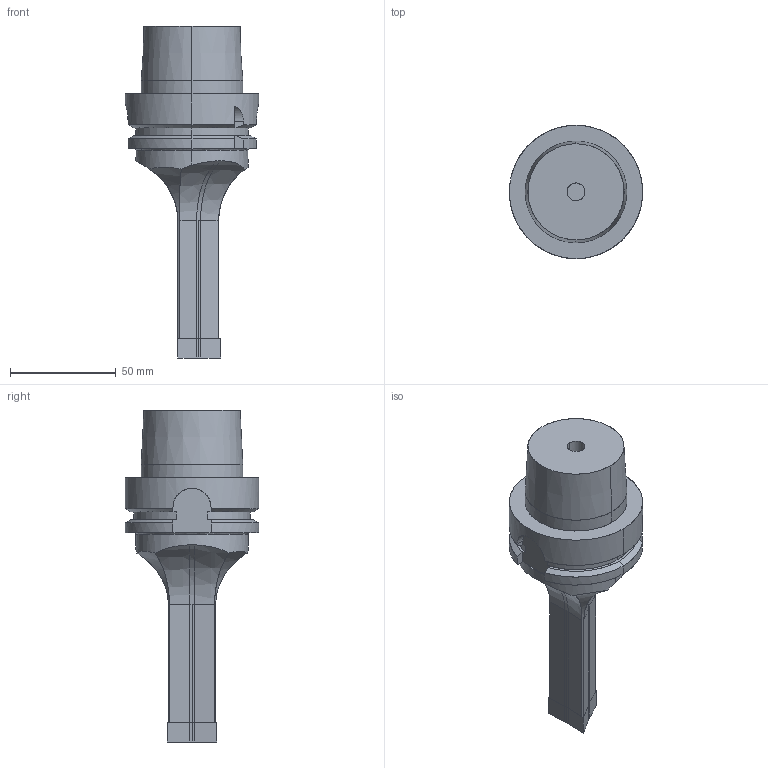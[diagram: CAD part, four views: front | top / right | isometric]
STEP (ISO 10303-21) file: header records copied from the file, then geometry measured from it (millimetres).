
FILE_DESCRIPTION(('OPEN MIND Model'),'2;1');
FILE_NAME('OPEN MIND Shape Model','2021-08-11T15:20:01',('Author'),( 'hyperCAD-S '),'hyperCAD-S STEP processor 6.6','hyperCAD-S 1.0' ,'Unknown');
FILE_SCHEMA(('AUTOMOTIVE_DESIGN { 1 2 10303 214 -1 1 5 4 }'));
Length unit declared in the file: millimetre
Products named in the file (105): Product 1; Product 1.1; Product 1.2; Product 1.3; Product 1.4; Product 1.5; Product 1.6; Product 1.7; Product 1.8; Product 1.9; Product 1.10; Product 1.11; Product 1.12; Product 1.13; Product 1.14; Product 1.15; Product 1.16; Product 1.17; Product 1.18; Product 1.19; Product 1.20; Product 1.21; Product 1.22; Product 1.23; Product 1.24; Product 1.25; Product 1.26; Product 1.27; Product 1.28; Product 1.29; Product 1.30; Product 1.31; Product 1.32; Product 1.33; Product 1.34; Product 1.35; Product 1.36; Product 1.37; Product 1.38; Product 1.39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
Assembly tree (104 placements, depth 2):
  Product 1
    Product 1.1
    Product 1.2
    Product 1.3
    Product 1.4
    Product 1.5
    Product 1.6
    Product 1.7
    Product 1.8
    Product 1.9
    Product 1.10
    Product 1.11
    Product 1.12
    Product 1.13
    Product 1.14
    Product 1.15
    Product 1.16
    Product 1.17
    Product 1.18
    Product 1.19
    Product 1.20
    Product 1.21
    Product 1.22
    Product 1.23
    Product 1.24
    Product 1.25
    Product 1.26
    Product 1.27
    Product 1.28
    Product 1.29
    Product 1.30
    Product 1.31
    Product 1.32
    Product 1.33
    Product 1.34
    Product 1.35
    Product 1.36
    Product 1.37
    Product 1.38
    Product 1.39
    Product 1.40
    Product 1.41
    Product 1.42
    Product 1.43
    Product 1.44
    Product 1.45
    Product 1.46
    Product 1.47
    Product 1.48
    Product 1.49
    Product 1.50
    Product 1.51
    Product 1.52
    Product 1.53
    Product 1.54
    Product 1.55
    Product 1.56
    Product 1.57
    Product 1.58
    Product 1.59
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Bounding box: 63 x 63 x 156.86 mm (x, y, z)
Volume: 1961.7 mm3; surface area: 25686.2 mm2
Topology: 1 solids, 91 shells, 104 faces, 523 edges, 524 vertices
Faces by surface type: plane 42, cylinder 37, revolution 22, bspline 3
Entity records: 14520 total; most frequent: CARTESIAN_POINT 7168, B_SPLINE_CURVE_WITH_KNOTS 870, ORIENTED_EDGE 547, PCURVE 547, DEFINITIONAL_REPRESENTATION 547, DIRECTION 528, EDGE_CURVE 511, SURFACE_CURVE 511
